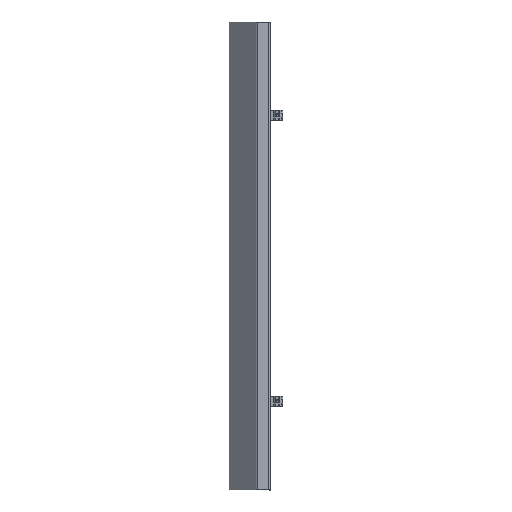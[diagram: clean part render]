
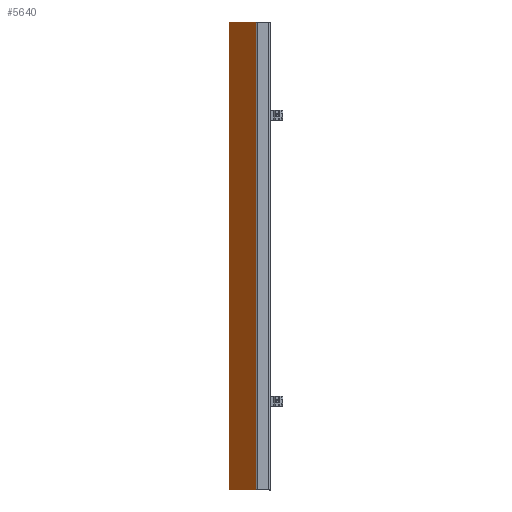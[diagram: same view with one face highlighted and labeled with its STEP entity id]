
A CAD part, left-side view. The second image highlights one B-rep face of the part: STEP entity #5640.
In plain terms, the highlighted planar face has unit normal (-0.707, 0.707, 0).
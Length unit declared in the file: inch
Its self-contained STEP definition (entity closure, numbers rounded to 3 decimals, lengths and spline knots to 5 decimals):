
#109 = VECTOR ( 'NONE', #4700, 39.37008 ) ;
#318 = AXIS2_PLACEMENT_3D ( 'NONE', #5471, #1526, #1638 ) ;
#420 = EDGE_CURVE ( 'NONE', #1028, #5447, #1352, .T. ) ;
#901 = CARTESIAN_POINT ( 'NONE',  ( -0.30607, 1.03107, -18. ) ) ;
#1001 = ORIENTED_EDGE ( 'NONE', *, *, #3937, .T. ) ;
#1028 = VERTEX_POINT ( 'NONE', #3702 ) ;
#1352 = LINE ( 'NONE', #2302, #3809 ) ;
#1526 = DIRECTION ( 'NONE',  ( -0.707, 0.707, 0. ) ) ;
#1626 = LINE ( 'NONE', #4640, #4069 ) ;
#1638 = DIRECTION ( 'NONE',  ( -0.707, -0.707, 0. ) ) ;
#1797 = EDGE_LOOP ( 'NONE', ( #3545, #1001, #5467, #4986 ) ) ;
#1956 = CARTESIAN_POINT ( 'NONE',  ( -0.30607, 1.03107, 18. ) ) ;
#1988 = VERTEX_POINT ( 'NONE', #1956 ) ;
#2063 = DIRECTION ( 'NONE',  ( 0., 0., 1. ) ) ;
#2113 = CARTESIAN_POINT ( 'NONE',  ( 1.77132, 3.10845, -18. ) ) ;
#2146 = CARTESIAN_POINT ( 'NONE',  ( -0.30607, 1.03107, 0. ) ) ;
#2224 = VECTOR ( 'NONE', #2063, 39.37008 ) ;
#2302 = CARTESIAN_POINT ( 'NONE',  ( 1.77132, 3.10845, 18. ) ) ;
#2792 = VERTEX_POINT ( 'NONE', #901 ) ;
#3162 = DIRECTION ( 'NONE',  ( 0., 0., 1. ) ) ;
#3404 = DIRECTION ( 'NONE',  ( -0.707, -0.707, 0. ) ) ;
#3437 = LINE ( 'NONE', #2146, #2224 ) ;
#3545 = ORIENTED_EDGE ( 'NONE', *, *, #4527, .F. ) ;
#3702 = CARTESIAN_POINT ( 'NONE',  ( 1.77132, 3.10845, -18. ) ) ;
#3809 = VECTOR ( 'NONE', #3162, 39.37008 ) ;
#3937 = EDGE_CURVE ( 'NONE', #2792, #1988, #3437, .T. ) ;
#4069 = VECTOR ( 'NONE', #3404, 39.37008 ) ;
#4168 = FACE_OUTER_BOUND ( 'NONE', #1797, .T. ) ;
#4527 = EDGE_CURVE ( 'NONE', #2792, #1028, #5520, .T. ) ;
#4640 = CARTESIAN_POINT ( 'NONE',  ( -0.32803, 1.0091, 18. ) ) ;
#4700 = DIRECTION ( 'NONE',  ( 0.707, 0.707, 0. ) ) ;
#4752 = EDGE_CURVE ( 'NONE', #5447, #1988, #1626, .T. ) ;
#4986 = ORIENTED_EDGE ( 'NONE', *, *, #420, .F. ) ;
#5414 = CARTESIAN_POINT ( 'NONE',  ( 1.77132, 3.10845, 18. ) ) ;
#5447 = VERTEX_POINT ( 'NONE', #5414 ) ;
#5448 = PLANE ( 'NONE',  #318 ) ;
#5467 = ORIENTED_EDGE ( 'NONE', *, *, #4752, .F. ) ;
#5471 = CARTESIAN_POINT ( 'NONE',  ( -0.65303, 0.6841, 0. ) ) ;
#5520 = LINE ( 'NONE', #2113, #109 ) ;
#5640 = ADVANCED_FACE ( 'NONE', ( #4168 ), #5448, .T. ) ;
